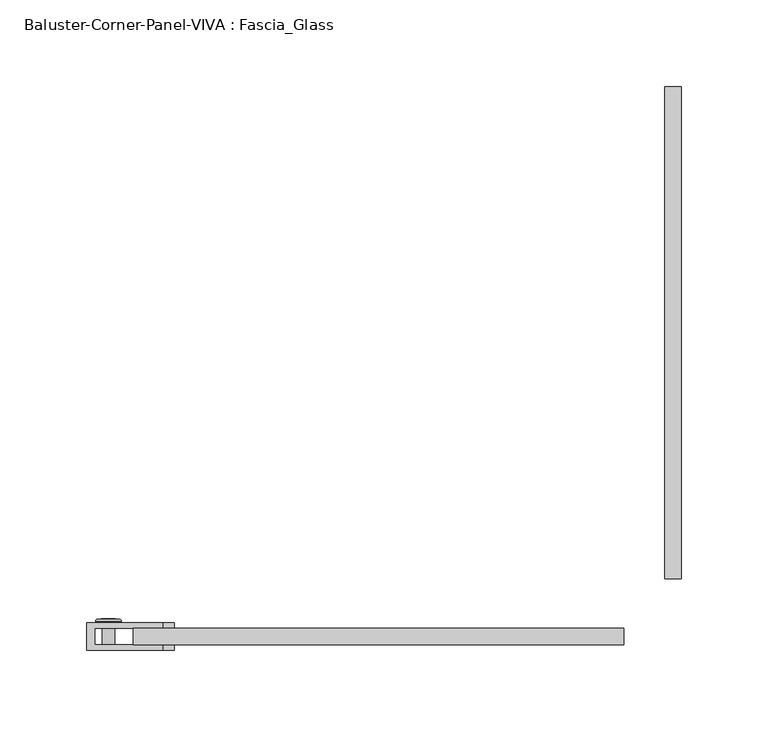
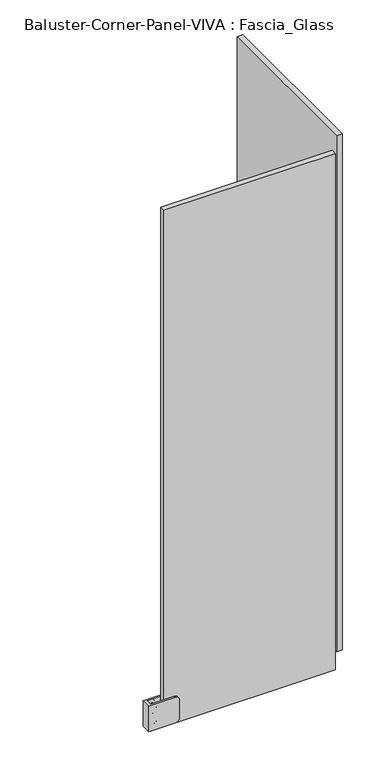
"""IFC4 building model written with IfcOpenShell, lengths in millimetres: railing geometry, Baluster-Corner-Panel-VIVA : Fascia_Glass."""

from ifc_helpers import new_model, si_unit, point, frame, origin, place, context, project, spatial, polyline, circle_curve, ellipse_curve, trimmed, outline, extrude, source, transform, mapped, element, save
from ifc_brep_helpers import plane_surface, cylinder_surface, revolved_surface, advanced_brep


def baluster_corner_panel_viva_fascia_glass_37de58ab(model_context):
    return source(origin(), model_context, "Body", "SolidModel", [
        advanced_brep(
        [(-297.8901815, -36.7665, 138.7358896), (-297.8901815, -24.0665, 138.7358896), (-290.7992897, -24.0665, 138.7358896), (-290.7992897, -36.7665, 138.7358896), (-301.7525247, -24.0665, 138.7358896), (-286.9369465, -24.0665, 138.7358896), (-296.000811, -23.199388, 138.7358896), (-296.000811, -36.7665, 138.7358896), (-292.6886602, -36.7665, 138.7358896), (-292.6886602, -23.199388, 138.7358896), (-301.7525247, -23.2316551, 138.7358896), (-300.4712527, -21.9503831, 138.7358896), (-288.2182186, -21.9503831, 138.7358896), (-286.9369465, -23.2316551, 138.7358896), (-298.6433312, -21.9503831, 138.7358896), (-290.0461401, -21.9503831, 138.7358896), (-298.6433312, -23.199388, 138.7358896), (-290.0461401, -23.199388, 138.7358896)],
        [
            (0, 1),
            (1, 2, circle_curve(frame((-294.3447356, -24.0665, 138.7358896), z_axis=(0.0, -1.0, 0.0), x_axis=(1.0, 0.0, 0.0)), 3.5454459)),
            (2, 3),
            (3, 0, circle_curve(frame((-294.3447356, -36.7665, 138.7358896), z_axis=(0.0, 1.0, 0.0), x_axis=(1.0, 0.0, 0.0)), 3.5454459)),
            (2, 1, circle_curve(frame((-294.3447356, -24.0665, 138.7358896), z_axis=(0.0, -1.0, 0.0), x_axis=(1.0, 0.0, 0.0)), 3.5454459)),
            (0, 3, circle_curve(frame((-294.3447356, -36.7665, 138.7358896), z_axis=(0.0, 1.0, 0.0), x_axis=(1.0, 0.0, 0.0)), 3.5454459)),
            (1, 4),
            (4, 5, circle_curve(frame((-294.3447356, -24.0665, 138.7358896), z_axis=(0.0, -1.0, 0.0), x_axis=(1.0, 0.0, 0.0)), 7.4077891)),
            (5, 2),
            (5, 4, circle_curve(frame((-294.3447356, -24.0665, 138.7358896), z_axis=(0.0, -1.0, 0.0), x_axis=(1.0, 0.0, 0.0)), 7.4077891)),
            (6, 7),
            (7, 8, circle_curve(frame((-294.3447356, -36.7665, 138.7358896), z_axis=(0.0, -1.0, 0.0), x_axis=(1.0, 0.0, 0.0)), 1.6560754)),
            (8, 9),
            (9, 6, circle_curve(frame((-294.3447356, -23.199388, 138.7358896), z_axis=(0.0, 1.0, 0.0), x_axis=(1.0, 0.0, 0.0)), 1.6560754)),
            (8, 7, circle_curve(frame((-294.3447356, -36.7665, 138.7358896), z_axis=(0.0, -1.0, 0.0), x_axis=(1.0, 0.0, 0.0)), 1.6560754)),
            (6, 9, circle_curve(frame((-294.3447356, -23.199388, 138.7358896), z_axis=(0.0, 1.0, 0.0), x_axis=(1.0, 0.0, 0.0)), 1.6560754)),
            (10, 11, circle_curve(frame((-300.4712527, -23.2316551, 138.7358896), z_axis=(0.0, 0.0, -1.0), x_axis=(-1.0, 0.0, 0.0)), 1.281272)),
            (11, 12, circle_curve(frame((-294.3447356, -21.9503831, 138.7358896), z_axis=(0.0, -1.0, 0.0), x_axis=(1.0, 0.0, 0.0)), 6.1265171)),
            (12, 13, circle_curve(frame((-288.2182186, -23.2316551, 138.7358896), z_axis=(0.0, 0.0, -1.0), x_axis=(1.0, 0.0, 0.0)), 1.281272)),
            (13, 10, circle_curve(frame((-294.3447356, -23.2316551, 138.7358896), z_axis=(0.0, 1.0, 0.0), x_axis=(1.0, 0.0, 0.0)), 7.4077891)),
            (12, 11, circle_curve(frame((-294.3447356, -21.9503831, 138.7358896), z_axis=(0.0, -1.0, 0.0), x_axis=(1.0, 0.0, 0.0)), 6.1265171)),
            (10, 13, circle_curve(frame((-294.3447356, -23.2316551, 138.7358896), z_axis=(0.0, 1.0, 0.0), x_axis=(1.0, 0.0, 0.0)), 7.4077891)),
            (11, 14),
            (14, 15, circle_curve(frame((-294.3447356, -21.9503831, 138.7358896), z_axis=(0.0, -1.0, 0.0), x_axis=(1.0, 0.0, 0.0)), 4.2985955)),
            (15, 12),
            (15, 14, circle_curve(frame((-294.3447356, -21.9503831, 138.7358896), z_axis=(0.0, -1.0, 0.0), x_axis=(1.0, 0.0, 0.0)), 4.2985955)),
            (4, 10),
            (13, 5),
            (7, 0),
            (3, 8),
            (14, 16),
            (16, 17, circle_curve(frame((-294.3447356, -23.199388, 138.7358896), z_axis=(0.0, -1.0, 0.0), x_axis=(1.0, 0.0, 0.0)), 4.2985955)),
            (17, 15),
            (17, 16, circle_curve(frame((-294.3447356, -23.199388, 138.7358896), z_axis=(0.0, -1.0, 0.0), x_axis=(1.0, 0.0, 0.0)), 4.2985955)),
            (16, 6),
            (9, 17),
        ],
        [
            cylinder_surface(frame((-294.3447356, -27.5632331, 138.7358896), z_axis=(0.0, -1.0, 0.0), x_axis=(1.0, 0.0, 0.0)), 3.5454459),
            plane_surface(frame((-294.3447356, -24.0665, 138.7358896), z_axis=(0.0, -1.0, 0.0), x_axis=(1.0, 0.0, 0.0))),
            revolved_surface(polyline([(-292.68866019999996, -36.7665, 138.7358896), (-292.68866019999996, -23.199388, 138.7358896)]), (-294.3447356, -27.5632331, 138.7358896), (0.0, -1.0, 0.0)),
            revolved_surface(trimmed(ellipse_curve(frame((-288.2182186, -23.2316551, 138.7358896), z_axis=(0.0, 0.0, -1.0), x_axis=(1.0, 0.0, 0.0)), 1.281272, 1.281272), [point((-288.2182186, -21.9503831, 138.7358896))], [point((-286.9369465, -23.2316551, 138.7358896))], True, "CARTESIAN"), (-294.3447356, -27.5632331, 138.7358896), (0.0, -1.0, 0.0)),
            plane_surface(frame((-294.3447356, -21.9503831, 138.7358896), z_axis=(0.0, 1.0, 0.0), x_axis=(1.0, 0.0, 0.0))),
            cylinder_surface(frame((-294.3447356, -27.5632331, 138.7358896), z_axis=(0.0, -1.0, 0.0), x_axis=(1.0, 0.0, 0.0)), 7.4077891),
            plane_surface(frame((-294.3447356, -36.7665, 138.7358896), z_axis=(0.0, -1.0, 0.0), x_axis=(1.0, 0.0, 0.0))),
            revolved_surface(polyline([(-290.0461401, -23.199388, 138.7358896), (-290.0461401, -21.9503831, 138.7358896)]), (-294.3447356, -27.5632331, 138.7358896), (0.0, -1.0, 0.0)),
            plane_surface(frame((-294.3447356, -23.199388, 138.7358896), z_axis=(0.0, 1.0, 0.0), x_axis=(1.0, 0.0, 0.0))),
        ],
        [
            (0, [[1, 2, 3, 4]]),
            (0, [[-3, 5, -1, 6]]),
            (1, [[7, 8, 9, -2]]),
            (1, [[-9, 10, -7, -5]]),
            (2, [[11, 12, 13, 14]]),
            (2, [[-13, 15, -11, 16]]),
            (3, [[17, 18, 19, 20]]),
            (3, [[-19, 21, -17, 22]]),
            (4, [[23, 24, 25, -18]]),
            (4, [[-25, 26, -23, -21]]),
            (5, [[27, -20, 28, -8]]),
            (5, [[-28, -22, -27, -10]]),
            (6, [[29, -4, 30, -12]]),
            (6, [[-30, -6, -29, -15]]),
            (7, [[31, 32, 33, -24]]),
            (7, [[-33, 34, -31, -26]]),
            (8, [[35, -14, 36, -32]]),
            (8, [[-36, -16, -35, -34]]),
        ],
    ),
        advanced_brep(
        [(-297.8901815, -36.7665, 114.1296396), (-297.8901815, -24.0665, 114.1296396), (-290.7992897, -24.0665, 114.1296396), (-290.7992897, -36.7665, 114.1296396), (-301.7525247, -24.0665, 114.1296396), (-286.9369465, -24.0665, 114.1296396), (-296.000811, -23.199388, 114.1296396), (-296.000811, -36.7665, 114.1296396), (-292.6886602, -36.7665, 114.1296396), (-292.6886602, -23.199388, 114.1296396), (-301.7525247, -23.2316551, 114.1296396), (-300.4712527, -21.9503831, 114.1296396), (-288.2182186, -21.9503831, 114.1296396), (-286.9369465, -23.2316551, 114.1296396), (-298.6433312, -21.9503831, 114.1296396), (-290.0461401, -21.9503831, 114.1296396), (-298.6433312, -23.199388, 114.1296396), (-290.0461401, -23.199388, 114.1296396)],
        [
            (0, 1),
            (1, 2, circle_curve(frame((-294.3447356, -24.0665, 114.1296396), z_axis=(0.0, -1.0, 0.0), x_axis=(1.0, 0.0, 0.0)), 3.5454459)),
            (2, 3),
            (3, 0, circle_curve(frame((-294.3447356, -36.7665, 114.1296396), z_axis=(0.0, 1.0, 0.0), x_axis=(1.0, 0.0, 0.0)), 3.5454459)),
            (2, 1, circle_curve(frame((-294.3447356, -24.0665, 114.1296396), z_axis=(0.0, -1.0, 0.0), x_axis=(1.0, 0.0, 0.0)), 3.5454459)),
            (0, 3, circle_curve(frame((-294.3447356, -36.7665, 114.1296396), z_axis=(0.0, 1.0, 0.0), x_axis=(1.0, 0.0, 0.0)), 3.5454459)),
            (1, 4),
            (4, 5, circle_curve(frame((-294.3447356, -24.0665, 114.1296396), z_axis=(0.0, -1.0, 0.0), x_axis=(1.0, 0.0, 0.0)), 7.4077891)),
            (5, 2),
            (5, 4, circle_curve(frame((-294.3447356, -24.0665, 114.1296396), z_axis=(0.0, -1.0, 0.0), x_axis=(1.0, 0.0, 0.0)), 7.4077891)),
            (6, 7),
            (7, 8, circle_curve(frame((-294.3447356, -36.7665, 114.1296396), z_axis=(0.0, -1.0, 0.0), x_axis=(1.0, 0.0, 0.0)), 1.6560754)),
            (8, 9),
            (9, 6, circle_curve(frame((-294.3447356, -23.199388, 114.1296396), z_axis=(0.0, 1.0, 0.0), x_axis=(1.0, 0.0, 0.0)), 1.6560754)),
            (8, 7, circle_curve(frame((-294.3447356, -36.7665, 114.1296396), z_axis=(0.0, -1.0, 0.0), x_axis=(1.0, 0.0, 0.0)), 1.6560754)),
            (6, 9, circle_curve(frame((-294.3447356, -23.199388, 114.1296396), z_axis=(0.0, 1.0, 0.0), x_axis=(1.0, 0.0, 0.0)), 1.6560754)),
            (10, 11, circle_curve(frame((-300.4712527, -23.2316551, 114.1296396), z_axis=(0.0, 0.0, -1.0), x_axis=(-1.0, 0.0, 0.0)), 1.281272)),
            (11, 12, circle_curve(frame((-294.3447356, -21.9503831, 114.1296396), z_axis=(0.0, -1.0, 0.0), x_axis=(1.0, 0.0, 0.0)), 6.1265171)),
            (12, 13, circle_curve(frame((-288.2182186, -23.2316551, 114.1296396), z_axis=(0.0, 0.0, -1.0), x_axis=(1.0, 0.0, 0.0)), 1.281272)),
            (13, 10, circle_curve(frame((-294.3447356, -23.2316551, 114.1296396), z_axis=(0.0, 1.0, 0.0), x_axis=(1.0, 0.0, 0.0)), 7.4077891)),
            (12, 11, circle_curve(frame((-294.3447356, -21.9503831, 114.1296396), z_axis=(0.0, -1.0, 0.0), x_axis=(1.0, 0.0, 0.0)), 6.1265171)),
            (10, 13, circle_curve(frame((-294.3447356, -23.2316551, 114.1296396), z_axis=(0.0, 1.0, 0.0), x_axis=(1.0, 0.0, 0.0)), 7.4077891)),
            (11, 14),
            (14, 15, circle_curve(frame((-294.3447356, -21.9503831, 114.1296396), z_axis=(0.0, -1.0, 0.0), x_axis=(1.0, 0.0, 0.0)), 4.2985955)),
            (15, 12),
            (15, 14, circle_curve(frame((-294.3447356, -21.9503831, 114.1296396), z_axis=(0.0, -1.0, 0.0), x_axis=(1.0, 0.0, 0.0)), 4.2985955)),
            (7, 0),
            (3, 8),
            (4, 10),
            (13, 5),
            (14, 16),
            (16, 17, circle_curve(frame((-294.3447356, -23.199388, 114.1296396), z_axis=(0.0, -1.0, 0.0), x_axis=(1.0, 0.0, 0.0)), 4.2985955)),
            (17, 15),
            (17, 16, circle_curve(frame((-294.3447356, -23.199388, 114.1296396), z_axis=(0.0, -1.0, 0.0), x_axis=(1.0, 0.0, 0.0)), 4.2985955)),
            (16, 6),
            (9, 17),
        ],
        [
            cylinder_surface(frame((-294.3447356, -27.5632331, 114.1296396), z_axis=(0.0, -1.0, 0.0), x_axis=(1.0, 0.0, 0.0)), 3.5454459),
            plane_surface(frame((-294.3447356, -24.0665, 114.1296396), z_axis=(0.0, -1.0, 0.0), x_axis=(1.0, 0.0, 0.0))),
            revolved_surface(polyline([(-292.68866019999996, -36.7665, 114.1296396), (-292.68866019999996, -23.199388, 114.1296396)]), (-294.3447356, -27.5632331, 114.1296396), (0.0, -1.0, 0.0)),
            revolved_surface(trimmed(ellipse_curve(frame((-288.2182186, -23.2316551, 114.1296396), z_axis=(0.0, 0.0, -1.0), x_axis=(1.0, 0.0, 0.0)), 1.281272, 1.281272), [point((-288.2182186, -21.9503831, 114.1296396))], [point((-286.9369465, -23.2316551, 114.1296396))], True, "CARTESIAN"), (-294.3447356, -27.5632331, 114.1296396), (0.0, -1.0, 0.0)),
            plane_surface(frame((-294.3447356, -21.9503831, 114.1296396), z_axis=(0.0, 1.0, 0.0), x_axis=(1.0, 0.0, 0.0))),
            plane_surface(frame((-294.3447356, -36.7665, 114.1296396), z_axis=(0.0, -1.0, 0.0), x_axis=(1.0, 0.0, 0.0))),
            cylinder_surface(frame((-294.3447356, -27.5632331, 114.1296396), z_axis=(0.0, -1.0, 0.0), x_axis=(1.0, 0.0, 0.0)), 7.4077891),
            revolved_surface(polyline([(-290.0461401, -23.199388, 114.1296396), (-290.0461401, -21.9503831, 114.1296396)]), (-294.3447356, -27.5632331, 114.1296396), (0.0, -1.0, 0.0)),
            plane_surface(frame((-294.3447356, -23.199388, 114.1296396), z_axis=(0.0, 1.0, 0.0), x_axis=(1.0, 0.0, 0.0))),
        ],
        [
            (0, [[1, 2, 3, 4]]),
            (0, [[-3, 5, -1, 6]]),
            (1, [[7, 8, 9, -2]]),
            (1, [[-9, 10, -7, -5]]),
            (2, [[11, 12, 13, 14]]),
            (2, [[-13, 15, -11, 16]]),
            (3, [[17, 18, 19, 20]]),
            (3, [[-19, 21, -17, 22]]),
            (4, [[23, 24, 25, -18]]),
            (4, [[-25, 26, -23, -21]]),
            (5, [[27, -4, 28, -12]]),
            (5, [[-28, -6, -27, -15]]),
            (6, [[29, -20, 30, -8]]),
            (6, [[-30, -22, -29, -10]]),
            (7, [[31, 32, 33, -24]]),
            (7, [[-33, 34, -31, -26]]),
            (8, [[35, -14, 36, -32]]),
            (8, [[-36, -16, -35, -34]]),
        ],
    ),
        extrude(outline(polyline([(114.1296396, -298.4386639), (110.5841937, -296.3916998), (110.5841937, -292.2977715), (114.1296396, -290.2508073), (117.6750855, -292.2977715), (117.6750855, -296.3916998), (114.1296396, -298.4386639)])), frame((0.0, -23.199388, 0.0), z_axis=(0.0, 1.0, 0.0), x_axis=(0.0, 0.0, 1.0)), (0.0, 0.0, 1.0), 1.4969696),
        advanced_brep(
        [(-306.9780804, -24.0665, 148.6577646), (-262.5280804, -24.0665, 148.6577646), (-256.1780804, -24.0665, 142.3077646), (-256.1780804, -24.0665, 110.5577646), (-262.5280804, -24.0665, 104.2077646), (-306.9780804, -24.0665, 104.2077646), (-306.9780804, -39.9415, 148.6577646), (-306.9780804, -39.9415, 104.2077646), (-262.5280804, -39.9415, 104.2077646), (-256.1780804, -39.9415, 110.5577646), (-256.1780804, -39.9415, 142.3077646), (-262.5280804, -39.9415, 148.6577646), (-262.5280804, -27.2415, 104.2077646), (-302.26, -27.2415, 104.2077646), (-302.26, -36.7665, 104.2077646), (-262.5280804, -36.7665, 104.2077646), (-302.26, -27.2415, 148.6577646), (-302.26, -36.7665, 148.6577646), (-256.1780804, -27.2415, 110.5577646), (-256.1780804, -27.2415, 142.3077646), (-262.5280804, -27.2415, 148.6577646), (-262.5280804, -36.7665, 148.6577646), (-256.1780804, -36.7665, 142.3077646), (-256.1780804, -36.7665, 110.5577646)],
        [
            (0, 1),
            (1, 2, circle_curve(frame((-262.5280804, -24.0665, 142.3077646), z_axis=(0.0, 1.0, 0.0), x_axis=(1.0, 0.0, 0.0)), 6.35)),
            (2, 3),
            (3, 4, circle_curve(frame((-262.5280804, -24.0665, 110.5577646), z_axis=(0.0, 1.0, 0.0), x_axis=(1.0, 0.0, 0.0)), 6.35)),
            (4, 5),
            (5, 0),
            (6, 7),
            (7, 8),
            (8, 9, circle_curve(frame((-262.5280804, -39.9415, 110.5577646), z_axis=(0.0, -1.0, 0.0), x_axis=(1.0, 0.0, 0.0)), 6.35)),
            (9, 10),
            (10, 11, circle_curve(frame((-262.5280804, -39.9415, 142.3077646), z_axis=(0.0, -1.0, 0.0), x_axis=(1.0, 0.0, 0.0)), 6.35)),
            (11, 6),
            (5, 7),
            (6, 0),
            (4, 12),
            (12, 13),
            (13, 14),
            (14, 15),
            (15, 8),
            (13, 16),
            (16, 17),
            (17, 14),
            (12, 18, circle_curve(frame((-262.5280804, -27.2415, 110.5577646), z_axis=(0.0, -1.0, 0.0), x_axis=(1.0, 0.0, 0.0)), 6.35)),
            (18, 19),
            (19, 20, circle_curve(frame((-262.5280804, -27.2415, 142.3077646), z_axis=(0.0, -1.0, 0.0), x_axis=(1.0, 0.0, 0.0)), 6.35)),
            (20, 16),
            (17, 21),
            (21, 22, circle_curve(frame((-262.5280804, -36.7665, 142.3077646), z_axis=(0.0, 1.0, 0.0), x_axis=(1.0, 0.0, 0.0)), 6.35)),
            (22, 23),
            (23, 15, circle_curve(frame((-262.5280804, -36.7665, 110.5577646), z_axis=(0.0, 1.0, 0.0), x_axis=(1.0, 0.0, 0.0)), 6.35)),
            (23, 9),
            (3, 18),
            (22, 10),
            (2, 19),
            (21, 11),
            (1, 20),
        ],
        [
            plane_surface(frame((-306.9780804, -24.0665, 104.2077646), z_axis=(0.0, 1.0, 0.0), x_axis=(0.0, 0.0, -1.0))),
            plane_surface(frame((-306.9780804, -39.9415, 104.2077646), z_axis=(0.0, -1.0, 0.0), x_axis=(0.0, 0.0, 1.0))),
            plane_surface(frame((-306.9780804, -24.0665, 148.6577646), z_axis=(-1.0, 0.0, 0.0), x_axis=(0.0, -1.0, 0.0))),
            plane_surface(frame((-306.9780804, -24.0665, 104.2077646), z_axis=(0.0, 0.0, -1.0), x_axis=(0.0, -1.0, 0.0))),
            plane_surface(frame((-302.26, -36.7665, 161.3577646), z_axis=(1.0, 0.0, 0.0), x_axis=(0.0, 0.0, -1.0))),
            plane_surface(frame((-302.26, -27.2415, 161.3577646), z_axis=(0.0, -1.0, 0.0), x_axis=(0.0, 0.0, -1.0))),
            plane_surface(frame((-243.4780804, -36.7665, 161.3577646), z_axis=(0.0, 1.0, 0.0), x_axis=(0.0, 0.0, -1.0))),
            cylinder_surface(frame((-262.5280804, -39.9415, 110.5577646), z_axis=(0.0, 1.0, 0.0), x_axis=(1.0, 0.0, 0.0)), 6.35),
            plane_surface(frame((-256.1780804, -24.0665, 110.5577646), z_axis=(1.0, 0.0, 0.0), x_axis=(0.0, -1.0, 0.0))),
            cylinder_surface(frame((-262.5280804, -39.9415, 142.3077646), z_axis=(0.0, 1.0, 0.0), x_axis=(1.0, 0.0, 0.0)), 6.35),
            plane_surface(frame((-262.5280804, -24.0665, 148.6577646), z_axis=(0.0, 0.0, 1.0), x_axis=(0.0, -1.0, 0.0))),
        ],
        [
            (0, [[1, 2, 3, 4, 5, 6]]),
            (1, [[7, 8, 9, 10, 11, 12]]),
            (2, [[13, -7, 14, -6]]),
            (3, [[15, 16, 17, 18, 19, -8, -13, -5]]),
            (4, [[-17, 20, 21, 22]]),
            (5, [[-16, 23, 24, 25, 26, -20]]),
            (6, [[27, 28, 29, 30, -18, -22]]),
            (7, [[-19, -30, 31, -9]]),
            (7, [[32, -23, -15, -4]]),
            (8, [[-31, -29, 33, -10]]),
            (8, [[34, -24, -32, -3]]),
            (9, [[-33, -28, 35, -11]]),
            (9, [[36, -25, -34, -2]]),
            (10, [[-14, -12, -35, -27, -21, -26, -36, -1]]),
        ],
    ),
        extrude(outline(polyline([(36.7665, 1.0851207), (27.2415, 1.0851207), (27.2415, 285.623), (36.7665, 285.623), (36.7665, 1.0851207)])), frame((0.0, 0.0, 101.6), z_axis=(0.0, 0.0, 1.0), x_axis=(1.0, 0.0, 0.0)), (0.0, 0.0, 1.0), 901.7),
        extrude(outline(polyline([(-280.035, -36.7665), (-280.035, -27.2415), (3.429, -27.2415), (3.429, -36.7665), (-280.035, -36.7665)])), frame((0.0, 0.0, 101.6), z_axis=(0.0, 0.0, 1.0), x_axis=(1.0, 0.0, 0.0)), (0.0, 0.0, 1.0), 901.7),
    ])


if __name__ == "__main__":
    model = new_model("IFC4")
    model_context = context("Model", 3, world=origin())
    ifc_project = project(units=[si_unit("LENGTHUNIT", "METRE", prefix="MILLI")], contexts=[model_context])
    site = spatial("IfcSite", under=ifc_project)
    building = spatial("IfcBuilding", under=site)
    placement = place(None, origin())
    baluster_corner_panel_viva_fascia_glass_shape = baluster_corner_panel_viva_fascia_glass_37de58ab(model_context)
    element("IfcRailing", 1, ObjectType="Baluster-Corner-Panel-VIVA : Fascia_Glass", at=placement, inside=building, context=model_context, shape_type="MappedRepresentation", body=[
        mapped(baluster_corner_panel_viva_fascia_glass_shape, transform((0.0, 0.0, 0.0), x_axis=(1.0, 0.0, 0.0), y_axis=(0.0, 1.0, 0.0), z_axis=(0.0, 0.0, 1.0))),
    ])
    save(model, "model.ifc")
